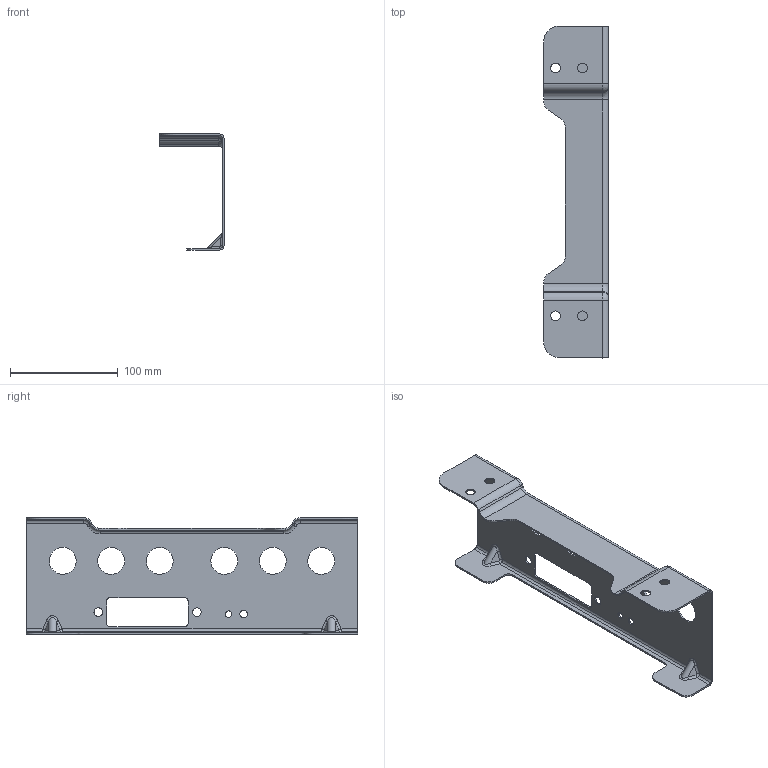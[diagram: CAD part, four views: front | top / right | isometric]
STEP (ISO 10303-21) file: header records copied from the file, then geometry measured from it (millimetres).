
FILE_DESCRIPTION(('CATIA V5 STEP Exchange'),'2;1');
FILE_NAME('D:\杨逍（新）\06-李燕龙\2023.1.9-G3新开件2D图纸-李燕龙\钣金单件图纸\SHT0015286-标配后支撑钣金\SHT0015286.stp','2023-01-11T06:31:18+00:00',('none'),('none'),'CATIA Version 5 Release 20 GA (IN-10)','CATIA V5 STEP AP214','none');
FILE_SCHEMA(('AUTOMOTIVE_DESIGN { 1 0 10303 214 1 1 1 1 }'));
Length unit declared in the file: millimetre
Products named in the file (1): Part98
Bounding box: 60 x 308 x 108.2 mm (x, y, z)
Volume: 67961.5 mm3; surface area: 93512.3 mm2
Topology: 1 solids, 1 shells, 164 faces, 438 edges, 276 vertices
Faces by surface type: cylinder 102, plane 38, bspline 16, torus 8
Entity records: 7030 total; most frequent: CARTESIAN_POINT 3244, ORIENTED_EDGE 876, DIRECTION 580, EDGE_CURVE 438, VERTEX_POINT 276, AXIS2_PLACEMENT_3D 245, VECTOR 204, LINE 204
